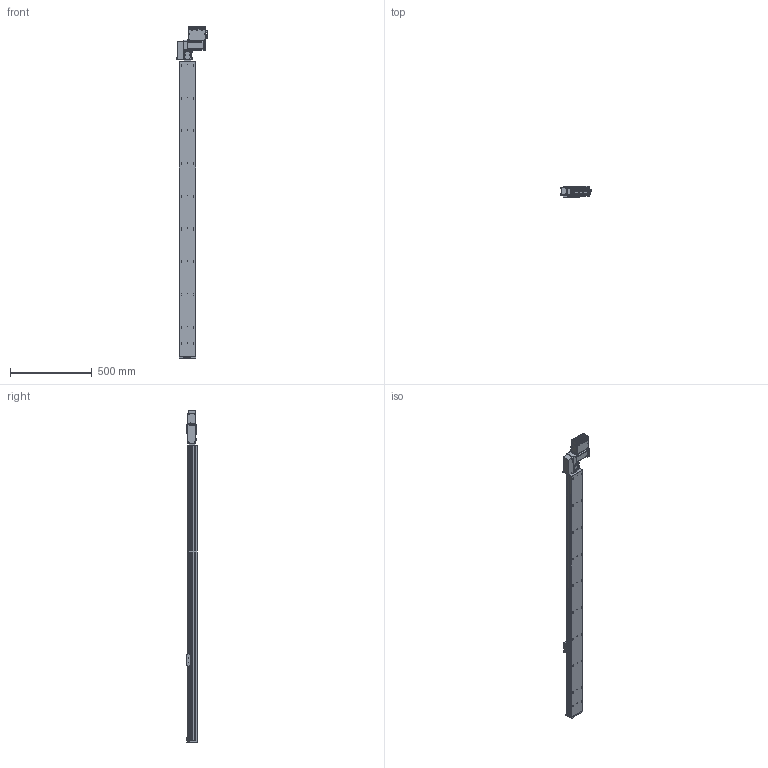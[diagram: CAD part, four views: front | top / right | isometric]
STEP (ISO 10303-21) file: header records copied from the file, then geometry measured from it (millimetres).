
FILE_DESCRIPTION (( 'STEP AP203' ), '1' );
FILE_NAME ('S10 TBN LH S1900.STEP', '2012-12-07T12:32:51', ( 'Conseil Régional Haute-Normandie' ), ( 'Conseil Régional Haute-Normandie' ), 'SwSTEP 2.0', 'SolidWorks 2010', '' );
FILE_SCHEMA (( 'CONFIG_CONTROL_DESIGN' ));
Length unit declared in the file: millimetre
Products named in the file (30): Cvis M5 L30_Default; embout; Vis M5 L16-2_Default_1; vis M5 L12_Default; Colonnette_3; Moteur 60BLDC90A_3; BU45 Carte d''axe A11_5; Sub D 9cts 90_X2_00B_X0__3; Radiateur profil_X2_00E9_X0_ 100x25_3; axe 1900.SLDPRT_Default; axe 1800; S10 TBN LH S1900; cache t皻e axe_Default; cache t皻e_Default; palette tbn; plaque de bout s10_Default; Plaque racord_Default; renvoi LH_Default; vis M5 L5_Default; Assem1_7; T_X2_00F4_X0_le contre le moteur_5; BU41 Carte Alimentation P05_3; Couvercle_3; T_X2_00F4_X0_le fond_3; Connecteur rond D10 3cts_5; Connecteur rond D12 4cts_5; Colonnette ronde_3; T_X2_00F4_X0_le Arri_X2_00E8_X0_re_5; T_X2_00F4_X0_le lat_X2_00E9_X0_rale_5; Vis TF 3 torkx_1_1
Assembly tree (63 placements, depth 3):
  S10 TBN LH S1900
    Plaque racord_Default
    Assem1_7
      T_X2_00F4_X0_le Arri_X2_00E8_X0_re_5
      Vis TF 3 torkx_1_1  x21
      Connecteur rond D10 3cts_5  x2
      Connecteur rond D12 4cts_5
      Colonnette ronde_3
      Colonnette_3  x2
      T_X2_00F4_X0_le lat_X2_00E9_X0_rale_5  x2
      Radiateur profil_X2_00E9_X0_ 100x25_3
      Moteur 60BLDC90A_3
      T_X2_00F4_X0_le fond_3
      T_X2_00F4_X0_le contre le moteur_5
      Couvercle_3
      BU45 Carte d''axe A11_5
      BU41 Carte Alimentation P05_3
      Sub D 9cts 90_X2_00B_X0__3
    axe 1900.SLDPRT_Default
      axe 1800
    Vis M5 L16-2_Default_1  x4
    cache t皻e axe_Default
    plaque de bout s10_Default
    cache t皻e_Default  x2
    vis M5 L12_Default  x4
    palette tbn
    vis M5 L5_Default  x4
    renvoi LH_Default
    Cvis M5 L30_Default  x2
    embout
Bounding box: 189.8 x 66.75 x 2028.74 mm (x, y, z)
Volume: 10147594.4 mm3; surface area: 1159194.5 mm2
Topology: 61 solids, 61 shells, 2325 faces, 5763 edges, 3722 vertices
Faces by surface type: plane 1102, cylinder 1006, cone 174, bspline 40, torus 3
Entity records: 48645 total; most frequent: CARTESIAN_POINT 8750, DIRECTION 7858, ORIENTED_EDGE 7122, EDGE_CURVE 3561, AXIS2_PLACEMENT_3D 2929, VERTEX_POINT 2326, VECTOR 2000, LINE 2000
